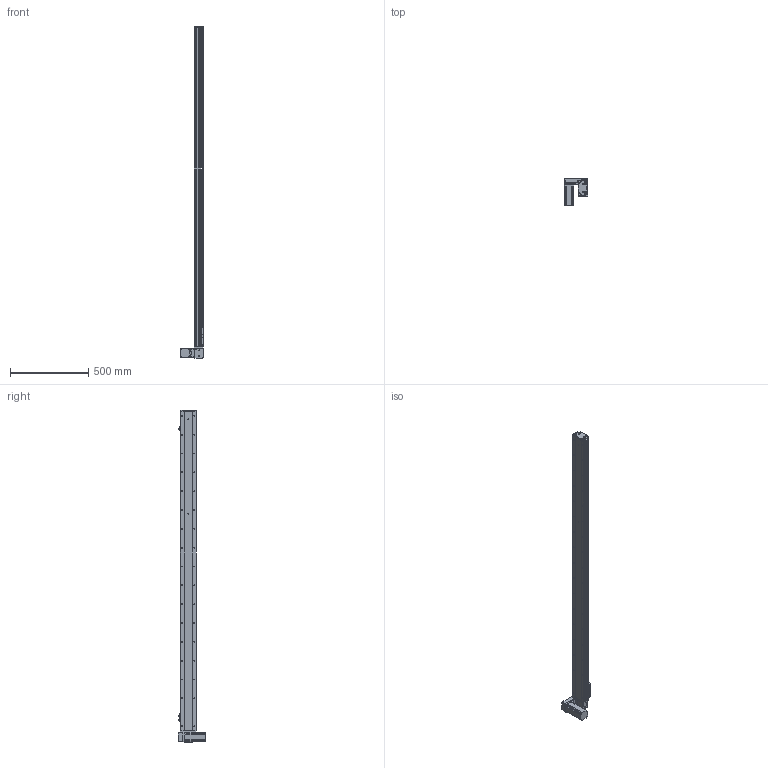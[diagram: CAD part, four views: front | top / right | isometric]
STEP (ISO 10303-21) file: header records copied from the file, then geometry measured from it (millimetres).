
FILE_DESCRIPTION (( 'STEP AP214' ), '1' );
FILE_NAME ('KSD100B-S1850-MLD-CM.STEP', '2019-11-11T03:35:55', ( '微软用户' ), ( '微软中国' ), 'SwSTEP 2.0', 'SolidWorks 2014', '' );
FILE_SCHEMA (( 'AUTOMOTIVE_DESIGN' ));
Length unit declared in the file: millimetre
Products named in the file (12): U倰嫖萇EEㄜSX672; 覜茼え100遵圉猾敕; 100宽防尘板1850行程-同步带; 100宽马达安装板同步带左; 100宽同步带安装板半封闭; 100宽马达安装板同步带; 100遵傷啣肮祭湍; 100宽底板半封闭同步带1850行程; KSD100B-S1850-MLD-CM; 悵誘欶奻狟殏; 100宽马达安装板连板上下折丝杆同步带; 台达ECMA－C20604AS伺服电机
Assembly tree (13 placements, depth 2):
  KSD100B-S1850-MLD-CM
    100宽底板半封闭同步带1850行程
    100遵傷啣肮祭湍
    100宽马达安装板同步带
    100宽同步带安装板半封闭
    100宽马达安装板同步带左
    100宽防尘板1850行程-同步带
    覜茼え100遵圉猾敕
    U倰嫖萇EEㄜSX672  x3
    台达ECMA－C20604AS伺服电机
    100宽马达安装板连板上下折丝杆同步带
    悵誘欶奻狟殏
Bounding box: 148 x 174.7 x 2115 mm (x, y, z)
Volume: 4361793.6 mm3; surface area: 1496840.3 mm2
Topology: 14 solids, 14 shells, 1707 faces, 4846 edges, 3047 vertices
Faces by surface type: cylinder 893, plane 619, cone 195
Entity records: 62883 total; most frequent: CARTESIAN_POINT 13554, DIRECTION 8470, ORIENTED_EDGE 8208, EDGE_CURVE 4104, AXIS2_PLACEMENT_3D 3125, VERTEX_POINT 2671, VECTOR 2220, LINE 2220
